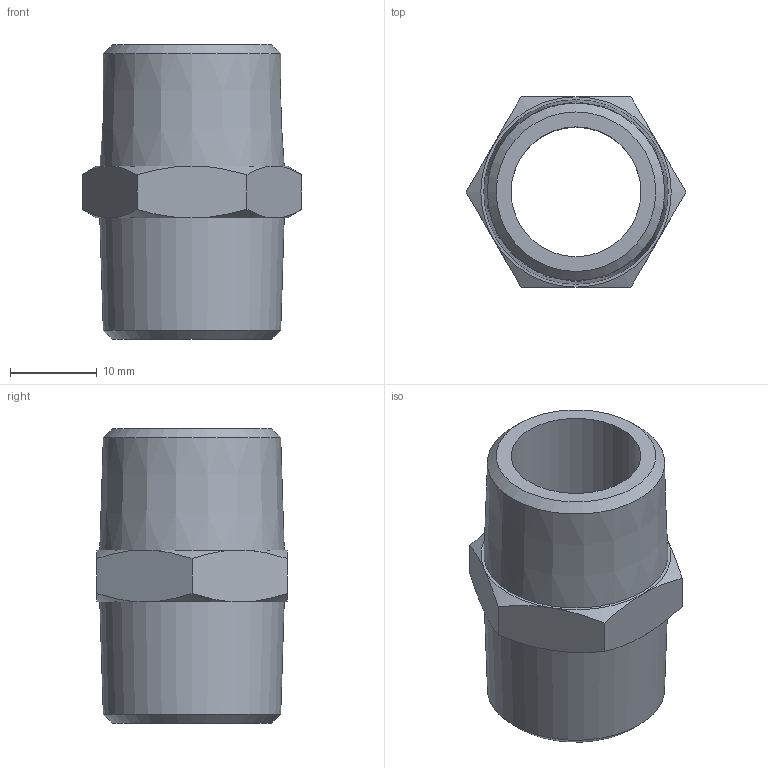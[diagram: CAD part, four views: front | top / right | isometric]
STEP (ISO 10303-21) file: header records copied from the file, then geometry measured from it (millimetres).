
FILE_DESCRIPTION((''),'2;1');
FILE_NAME('G:\Nirosan-Schmiedefeld\Technics\CAD\001 Serie 9.000\Kaufteile\DGN\6928012(0).stp','2018-10-16T10:53:53',('herberg'),(''),'Autodesk Inventor 2009','Autodesk Inventor 2009','');
FILE_SCHEMA(('AUTOMOTIVE_DESIGN { 1 0 10303 214 1 1 1 1 }'));
Length unit declared in the file: millimetre
Products named in the file (1): 6928012(0)
Bounding box: 25.4 x 22 x 34 mm (x, y, z)
Volume: 6010.4 mm3; surface area: 4209.6 mm2
Topology: 1 solids, 1 shells, 27 faces, 56 edges, 33 vertices
Faces by surface type: cone 9, plane 9, bspline 9
Entity records: 782 total; most frequent: CARTESIAN_POINT 297, ORIENTED_EDGE 100, DIRECTION 84, EDGE_CURVE 50, AXIS2_PLACEMENT_3D 39, EDGE_LOOP 36, VERTEX_POINT 32, FACE_OUTER_BOUND 27
